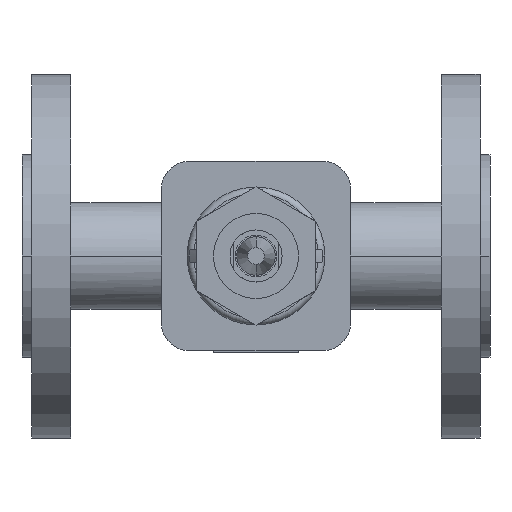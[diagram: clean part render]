
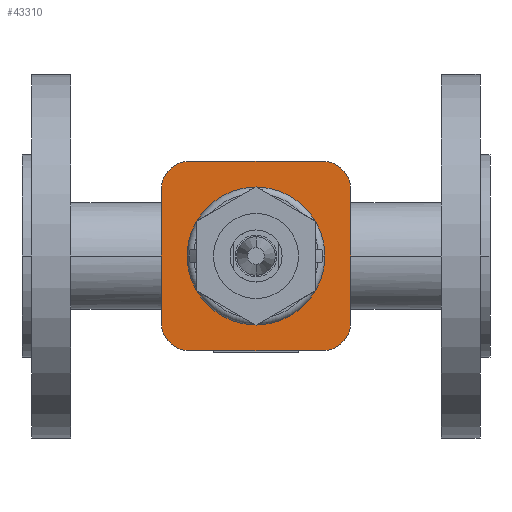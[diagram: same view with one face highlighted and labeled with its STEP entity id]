
A CAD part, front view. The second image highlights one B-rep face of the part: STEP entity #43310.
In plain terms, the highlighted planar face has unit normal (0, -1, 0).
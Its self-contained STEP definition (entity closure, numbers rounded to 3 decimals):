
#11260=CARTESIAN_POINT('',(116.5,-70.5,0.));
#11270=VERTEX_POINT('',#11260);
#11350=CARTESIAN_POINT('',(63.5,-70.5,0.));
#11360=VERTEX_POINT('',#11350);
#11390=CARTESIAN_POINT('',(90.,-70.5,0.));
#11400=DIRECTION('',(0.,-1.,0.));
#11410=DIRECTION('',(-1.,0.,0.));
#11420=AXIS2_PLACEMENT_3D('',#11390,#11400,#11410);
#11430=CIRCLE('',#11420,26.5);
#11440=EDGE_CURVE('',#11270,#11360,#11430,.T.);
#31170=CARTESIAN_POINT('',(115.456,-70.5,36.456));
#31180=VERTEX_POINT('',#31170);
#31210=CARTESIAN_POINT('',(58.647,-70.5,36.456));
#31220=DIRECTION('',(-1.,0.,0.));
#31230=VECTOR('',#31220,1.);
#31240=LINE('',#31210,#31230);
#31250=CARTESIAN_POINT('',(64.544,-70.5,36.456));
#31260=VERTEX_POINT('',#31250);
#31270=EDGE_CURVE('',#31180,#31260,#31240,.T.);
#34260=CARTESIAN_POINT('',(64.544,-70.5,25.456));
#34270=DIRECTION('',(0.,-1.,0.));
#34280=DIRECTION('',(-1.,0.,0.));
#34290=AXIS2_PLACEMENT_3D('',#34260,#34270,#34280);
#34300=CIRCLE('',#34290,11.);
#34310=CARTESIAN_POINT('',(53.544,-70.5,25.456));
#34320=VERTEX_POINT('',#34310);
#34330=EDGE_CURVE('',#31260,#34320,#34300,.T.);
#35290=CARTESIAN_POINT('',(126.456,-70.5,-25.456));
#35300=VERTEX_POINT('',#35290);
#35330=CARTESIAN_POINT('',(126.456,-70.5,12.728));
#35340=DIRECTION('',(0.,0.,1.));
#35350=VECTOR('',#35340,1.);
#35360=LINE('',#35330,#35350);
#35370=CARTESIAN_POINT('',(126.456,-70.5,25.456));
#35380=VERTEX_POINT('',#35370);
#35390=EDGE_CURVE('',#35300,#35380,#35360,.T.);
#37370=CARTESIAN_POINT('',(53.544,-70.5,-12.728));
#37380=DIRECTION('',(0.,0.,-1.));
#37390=VECTOR('',#37380,1.);
#37400=LINE('',#37370,#37390);
#37410=CARTESIAN_POINT('',(53.544,-70.5,-25.456));
#37420=VERTEX_POINT('',#37410);
#37430=EDGE_CURVE('',#34320,#37420,#37400,.T.);
#42840=CARTESIAN_POINT('',(52.75,-70.5,0.));
#42850=DIRECTION('',(0.,-1.,0.));
#42860=DIRECTION('',(-1.,0.,0.));
#42870=AXIS2_PLACEMENT_3D('',#42840,#42850,#42860);
#42880=PLANE('',#42870);
#42890=ORIENTED_EDGE('',*,*,#34330,.T.);
#42900=ORIENTED_EDGE('',*,*,#31270,.T.);
#42910=CARTESIAN_POINT('',(115.456,-70.5,25.456));
#42920=DIRECTION('',(0.,-1.,0.));
#42930=DIRECTION('',(0.,0.,1.));
#42940=AXIS2_PLACEMENT_3D('',#42910,#42920,#42930);
#42950=CIRCLE('',#42940,11.);
#42960=EDGE_CURVE('',#35380,#31180,#42950,.T.);
#42970=ORIENTED_EDGE('',*,*,#42960,.T.);
#42980=ORIENTED_EDGE('',*,*,#35390,.T.);
#42990=CARTESIAN_POINT('',(115.456,-70.5,-25.456));
#43000=DIRECTION('',(0.,-1.,0.));
#43010=DIRECTION('',(1.,0.,0.));
#43020=AXIS2_PLACEMENT_3D('',#42990,#43000,#43010);
#43030=CIRCLE('',#43020,11.);
#43040=CARTESIAN_POINT('',(115.456,-70.5,-36.456));
#43050=VERTEX_POINT('',#43040);
#43060=EDGE_CURVE('',#43050,#35300,#43030,.T.);
#43070=ORIENTED_EDGE('',*,*,#43060,.T.);
#43080=CARTESIAN_POINT('',(84.103,-70.5,-36.456));
#43090=DIRECTION('',(1.,0.,0.));
#43100=VECTOR('',#43090,1.);
#43110=LINE('',#43080,#43100);
#43120=CARTESIAN_POINT('',(64.544,-70.5,-36.456));
#43130=VERTEX_POINT('',#43120);
#43140=EDGE_CURVE('',#43130,#43050,#43110,.T.);
#43150=ORIENTED_EDGE('',*,*,#43140,.T.);
#43160=CARTESIAN_POINT('',(64.544,-70.5,-25.456));
#43170=DIRECTION('',(0.,-1.,0.));
#43180=DIRECTION('',(0.,0.,-1.));
#43190=AXIS2_PLACEMENT_3D('',#43160,#43170,#43180);
#43200=CIRCLE('',#43190,11.);
#43210=EDGE_CURVE('',#37420,#43130,#43200,.T.);
#43220=ORIENTED_EDGE('',*,*,#43210,.T.);
#43230=ORIENTED_EDGE('',*,*,#37430,.T.);
#43240=EDGE_LOOP('',(#43230,#43220,#43150,#43070,#42980,#42970,#42900,
#42890));
#43250=FACE_OUTER_BOUND('',#43240,.T.);
#43260=EDGE_CURVE('',#11360,#11270,#11430,.T.);
#43270=ORIENTED_EDGE('',*,*,#43260,.F.);
#43280=ORIENTED_EDGE('',*,*,#11440,.F.);
#43290=EDGE_LOOP('',(#43280,#43270));
#43300=FACE_BOUND('',#43290,.T.);
#43310=ADVANCED_FACE('',(#43250,#43300),#42880,.T.);
